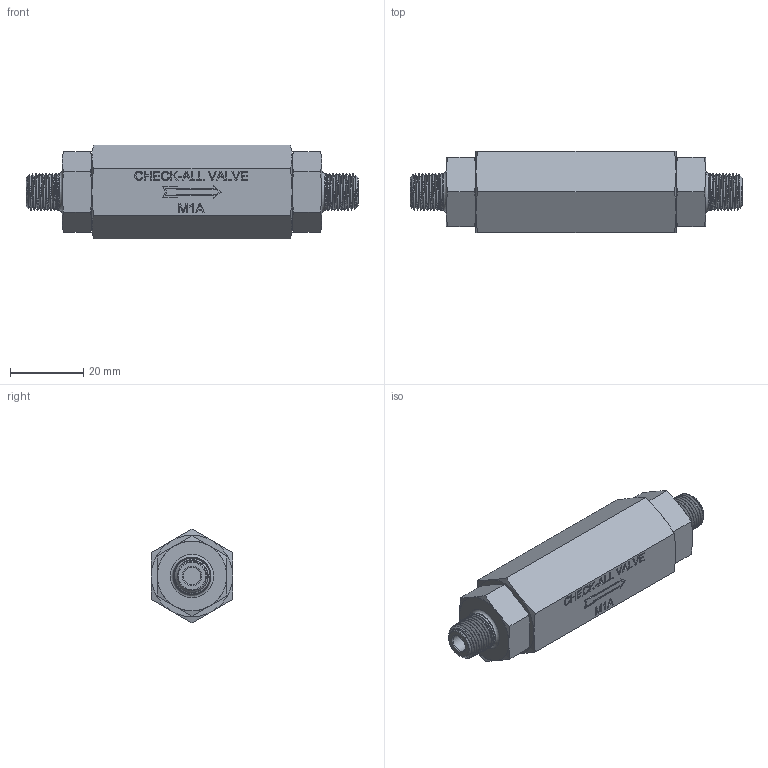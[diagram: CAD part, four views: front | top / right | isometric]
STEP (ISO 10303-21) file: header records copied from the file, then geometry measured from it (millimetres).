
FILE_DESCRIPTION( ( 'Unknown' ), '1' );
FILE_NAME( 'Y:/ENGR/3D Solid Edge Models/M(1-8)/M1/stp/M1A.stp', 'Unknown', ( 'Unknown' ), ( 'Unknown' ), 'PSStep 16.0.42', 'Unknown', ' ' );
FILE_SCHEMA( ( 'AUTOMOTIVE_DESIGN { 1 0 10303 214 1 1 1 1 }' ) );
Length unit declared in the file: millimetre
Products named in the file (1): 5016b 
Bounding box: 90.83 x 22.23 x 25.66 mm (x, y, z)
Volume: 29620.2 mm3; surface area: 7474.4 mm2
Topology: 1 solids, 1 shells, 387 faces, 986 edges, 620 vertices
Faces by surface type: plane 199, cylinder 56, cone 44, torus 34, bspline 32, extrusion 18, sphere 4
Full cylindrical faces by diameter (mm): 4.763 x2, 10.287 x4
Entity records: 50015 total; most frequent: CARTESIAN_POINT 38411, ORIENTED_EDGE 1882, DIRECTION 1547, EDGE_CURVE 941, VERTEX_POINT 602, AXIS2_PLACEMENT_3D 518, VECTOR 511, LINE 493
